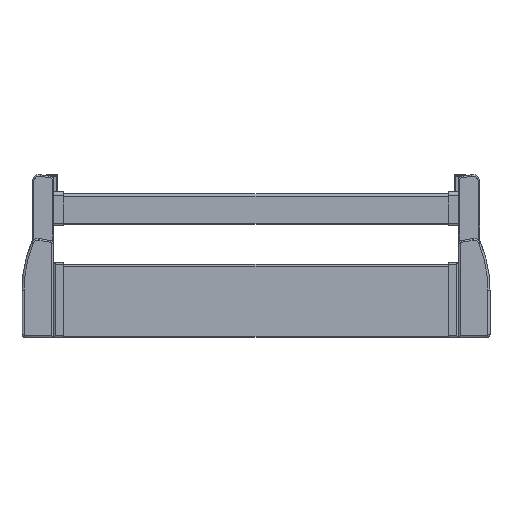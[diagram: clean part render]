
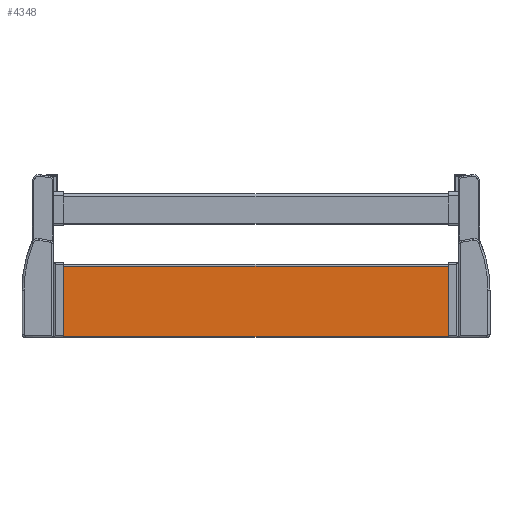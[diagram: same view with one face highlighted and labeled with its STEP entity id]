
A CAD part, top view. The second image highlights one B-rep face of the part: STEP entity #4348.
In plain terms, the highlighted planar face has unit normal (0, 0, 1).
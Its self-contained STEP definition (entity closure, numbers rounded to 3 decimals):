
#677 = VERTEX_POINT ( 'NONE', #2428 ) ;
#681 = EDGE_CURVE ( 'NONE', #683, #677, #2483, .T. ) ;
#683 = VERTEX_POINT ( 'NONE', #2479 ) ;
#2428 = CARTESIAN_POINT ( 'NONE',  ( 188.8, -23., 1.4 ) ) ;
#2479 = CARTESIAN_POINT ( 'NONE',  ( 188.8, -92.5, 1.4 ) ) ;
#2480 = DIRECTION ( 'NONE',  ( 0., 1., 0. ) ) ;
#2481 = VECTOR ( 'NONE', #2480, 1000. ) ;
#2482 = CARTESIAN_POINT ( 'NONE',  ( 188.8, -92.5, 1.4 ) ) ;
#2483 = LINE ( 'NONE', #2482, #2481 ) ;
#3537 = FACE_OUTER_BOUND ( 'NONE', #4697, .T. ) ;
#3567 = DIRECTION ( 'NONE',  ( 0., 1., 0. ) ) ;
#3568 = DIRECTION ( 'NONE',  ( 0., 0., -1. ) ) ;
#3569 = CARTESIAN_POINT ( 'NONE',  ( 262.556, -92.5, 1.4 ) ) ;
#3570 = AXIS2_PLACEMENT_3D ( 'NONE', #3569, #3568, #3567 ) ;
#3571 = PLANE ( 'NONE',  #3570 ) ;
#3605 = CARTESIAN_POINT ( 'NONE',  ( -188.8, -92.5, 1.4 ) ) ;
#3766 = DIRECTION ( 'NONE',  ( 0., 1., 0. ) ) ;
#3767 = VECTOR ( 'NONE', #3766, 1000. ) ;
#3768 = CARTESIAN_POINT ( 'NONE',  ( -188.8, -92.5, 1.4 ) ) ;
#3769 = LINE ( 'NONE', #3768, #3767 ) ;
#4070 = DIRECTION ( 'NONE',  ( -1., 0., 0. ) ) ;
#4071 = VECTOR ( 'NONE', #4070, 1000. ) ;
#4072 = CARTESIAN_POINT ( 'NONE',  ( 262.556, -23., 1.4 ) ) ;
#4073 = LINE ( 'NONE', #4072, #4071 ) ;
#4074 = CARTESIAN_POINT ( 'NONE',  ( -188.8, -23., 1.4 ) ) ;
#4166 = DIRECTION ( 'NONE',  ( -1., 0., 0. ) ) ;
#4167 = VECTOR ( 'NONE', #4166, 1000. ) ;
#4168 = CARTESIAN_POINT ( 'NONE',  ( 262.556, -92.5, 1.4 ) ) ;
#4169 = LINE ( 'NONE', #4168, #4167 ) ;
#4348 = ADVANCED_FACE ( 'NONE', ( #3537 ), #3571, .F. ) ;
#4364 = VERTEX_POINT ( 'NONE', #3605 ) ;
#4470 = EDGE_CURVE ( 'NONE', #4364, #4659, #3769, .T. ) ;
#4658 = ORIENTED_EDGE ( 'NONE', *, *, #681, .T. ) ;
#4659 = VERTEX_POINT ( 'NONE', #4074 ) ;
#4660 = EDGE_CURVE ( 'NONE', #677, #4659, #4073, .T. ) ;
#4697 = EDGE_LOOP ( 'NONE', ( #5007, #4658, #4997, #5006 ) ) ;
#4712 = EDGE_CURVE ( 'NONE', #683, #4364, #4169, .T. ) ;
#4997 = ORIENTED_EDGE ( 'NONE', *, *, #4660, .T. ) ;
#5006 = ORIENTED_EDGE ( 'NONE', *, *, #4470, .F. ) ;
#5007 = ORIENTED_EDGE ( 'NONE', *, *, #4712, .F. ) ;
